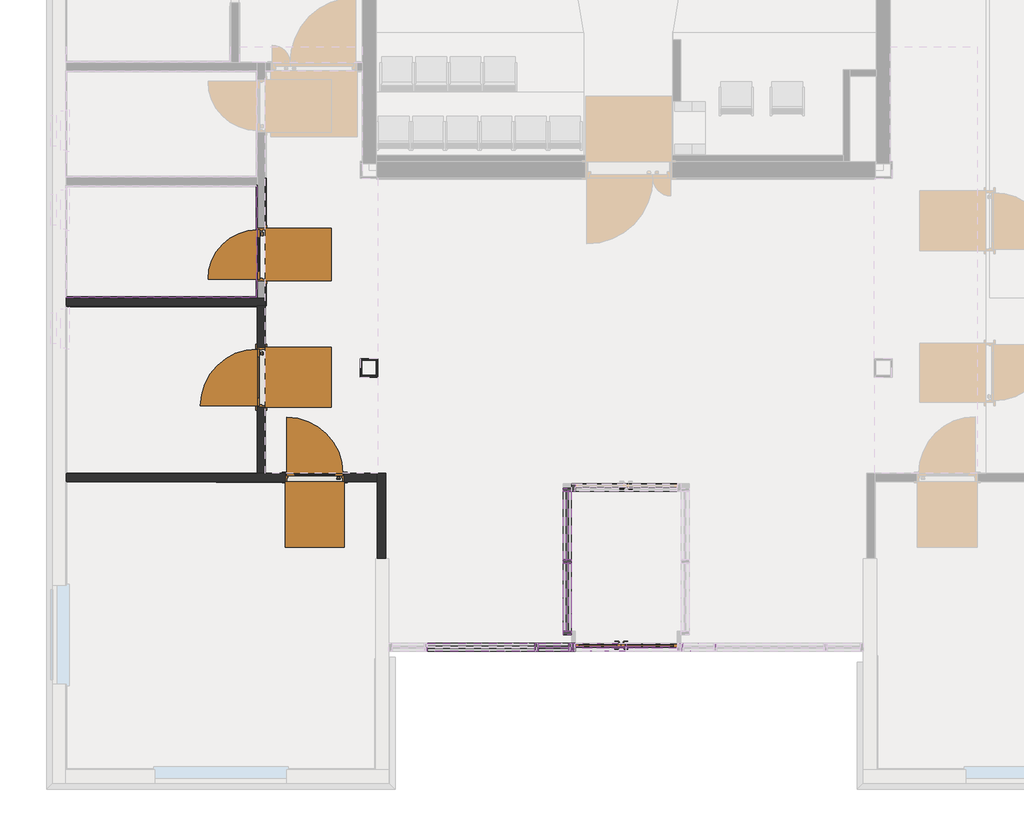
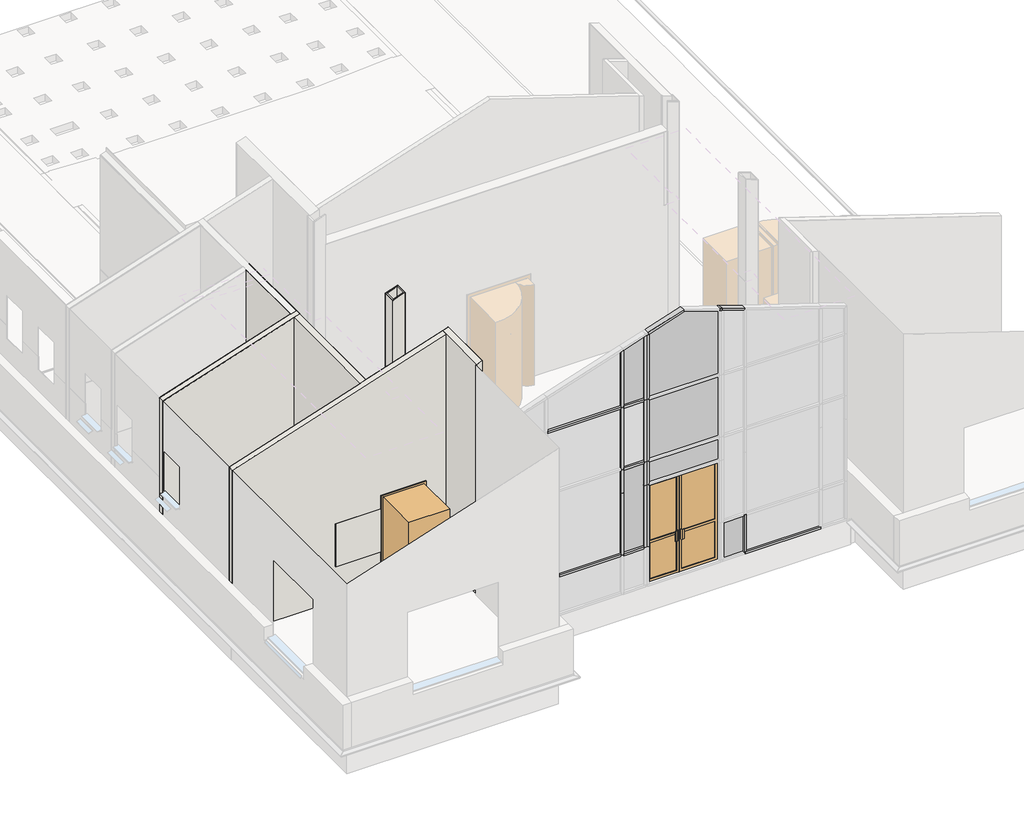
# One storey, part 2 of 12: 37 members, 30 walls, 10 plates, 4 doors.
"""IFC4 building model written with IfcOpenShell, lengths in millimetres."""

from ifc_helpers import new_model, si_unit, frame, origin, origin_with_axes, place, context, project, spatial, polyline, outline, extrude, faceted_brep, transform, mapped, element, save
from components import door_db114602, door_22111eda, door_7bd7211d, door_b59ed808, member_4268e8c1, member_764e5df5, member_5ccecf80, member_849f455b, member_3330f06f, member_3624bc93, member_29c79f2a, member_ba40098e, member_1561aec9, member_f8fde225, member_0fd53cfc, member_ea9aa2e4, member_955f90e7, member_051b1cdf, member_db976e64, member_66ab7281, member_6d54f6d0, member_7e95aabb, member_1ef56fb2, member_f5f8aabc, member_367de799, member_79c3f76f, member_5c1dcb9d, member_df7b1f04, member_ffb9b795, member_4296cfb2, plate_fea7ad9d, plate_c80c347d, plate_43bee1a1, plate_505dbdeb, plate_3f0cfdd4, plate_f7cdd711, plate_e0450a71, plate_c8260542

model = new_model("IFC4")

# Units and contexts
model_context = context("Model", 3, world=origin())
ifc_project = project(units=[si_unit("LENGTHUNIT", "METRE", prefix="MILLI")], contexts=[model_context])

# Site, building, storey
site = spatial("IfcSite", under=ifc_project)
building = spatial("IfcBuilding", under=site)
storey = spatial("IfcBuildingStorey", under=building, Name="Этаж 01", Elevation=0.0)

# Doors
placement = place(None, origin())
door_shape = door_db114602(model_context)
element("IfcDoor", 1, ObjectType="Дверь_Деревянная_Внутренняя_Однопольная_ГОСТ_475-2016 : 0810 x 2070(h)_Пр_с Порогом", at=placement, inside=storey, context=model_context, shape_type="MappedRepresentation", body=[
    mapped(door_shape, transform((2862.2198034, 7719.9998515, 0.0), x_axis=(0.0, 1.0, 0.0), y_axis=(-1.0, 0.0, 0.0), z_axis=(0.0, 0.0, 1.0))),
])
door_2_shape = door_22111eda(model_context)
element("IfcDoor", 2, ObjectType="Дверь_Деревянная_Внутренняя_Однопольная_ГОСТ_475-2016 : 0910 х 2070(h)_Пр_с Порогом", at=placement, inside=storey, context=model_context, shape_type="MappedRepresentation", body=[
    mapped(door_2_shape, transform((2859.5810094, 5854.9957095, 0.0), x_axis=(0.0, 1.0, 0.0), y_axis=(-1.0, 0.0, 0.0), z_axis=(0.0, 0.0, 1.0))),
])
door_3_shape = door_7bd7211d(model_context)
element("IfcDoor", 3, ObjectType="Дверь_Деревянная_Внутренняя_Однопольная_ГОСТ_475-2016 : 1010 х 2070(h)_Пр_с Порогом 2", at=placement, inside=storey, context=model_context, shape_type="MappedRepresentation", body=[
    mapped(door_3_shape, transform((3675.258522, 4340.6707095, 0.0), x_axis=(1.0, 0.0, 0.0), y_axis=(0.0, 1.0, 0.0), z_axis=(0.0, 0.0, 1.0))),
])
door_4_shape = door_b59ed808(model_context)
element("IfcDoor", 4, ObjectType="Дверь-Витраж-Двойная-Витрина : Дверь-Витраж-Двойная-Витрина", at=placement, inside=storey, context=model_context, shape_type="MappedRepresentation", body=[
    mapped(door_4_shape, transform((8400.040308, 1760.3517467, 50.0), x_axis=(1.0, 0.0, 0.0), y_axis=(0.0, 1.0, 0.0), z_axis=(0.0, 0.0, 1.0))),
])

# Members
member_shape = member_4268e8c1(model_context)
element("IfcMember", 5, ObjectType="Прямоугольный импост : 50х120 мм", at=placement, inside=storey, context=model_context, shape_type="MappedRepresentation", body=[
    mapped(member_shape, transform((9750.0630762, 1760.3517467, 5756.0105118), x_axis=(0.30901699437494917, 0.0, 0.951056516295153), y_axis=(0.0, -1.0, 0.0), z_axis=(0.951056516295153, 0.0, -0.30901699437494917))),
])
member_2_shape = member_764e5df5(model_context)
element("IfcMember", 6, ObjectType="Прямоугольный импост : 50х120 мм", at=placement, inside=storey, context=model_context, shape_type="MappedRepresentation", body=[
    mapped(member_2_shape, transform((9750.0630762, 1760.3517467, 0.0), x_axis=(0.0, 0.0, -1.0), y_axis=(0.0, -1.0, 0.0), z_axis=(-1.0, 0.0, 0.0))),
])
member_3_shape = member_5ccecf80(model_context)
element("IfcMember", 7, ObjectType="Прямоугольный импост : 50х120 мм", at=placement, inside=storey, context=model_context, shape_type="MappedRepresentation", body=[
    mapped(member_3_shape, transform((9250.0630762, 1760.3517467, 5918.4703599), x_axis=(0.3090169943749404, 0.0, 0.9510565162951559), y_axis=(0.0, -1.0, 0.0), z_axis=(0.9510565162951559, 0.0, -0.3090169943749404))),
])
member_4_shape = member_849f455b(model_context)
element("IfcMember", 8, ObjectType="Прямоугольный импост : 50х120 мм", at=placement, inside=storey, context=model_context, shape_type="MappedRepresentation", body=[
    mapped(member_4_shape, transform((7040.0175397, 1760.3517467, 2925.0), x_axis=(1.0, 0.0, 0.0), y_axis=(0.0, -1.0, 0.0), z_axis=(0.0, 0.0, -1.0))),
])
element("IfcMember", 9, ObjectType="Прямоугольный импост : 50х120 мм", at=placement, inside=storey, context=model_context, shape_type="MappedRepresentation", body=[
    mapped(member_4_shape, transform((7550.0175397, 1760.3517467, 2925.0), x_axis=(1.0, 0.0, 0.0), y_axis=(0.0, -1.0, 0.0), z_axis=(0.0, 0.0, -1.0))),
])
element("IfcMember", 10, ObjectType="Прямоугольный импост : 50х120 мм", at=placement, inside=storey, context=model_context, shape_type="MappedRepresentation", body=[
    mapped(member_4_shape, transform((7600.0175397, 1760.3517467, 2925.0), x_axis=(1.0, 0.0, 0.0), y_axis=(0.0, -1.0, 0.0), z_axis=(0.0, 0.0, -1.0))),
])
element("IfcMember", 11, ObjectType="Прямоугольный импост : 50х120 мм", at=placement, inside=storey, context=model_context, shape_type="MappedRepresentation", body=[
    mapped(member_4_shape, transform((7600.0175397, 1760.3517467, 925.0), x_axis=(1.0, 0.0, 0.0), y_axis=(0.0, -1.0, 0.0), z_axis=(0.0, 0.0, -1.0))),
])
member_5_shape = member_3330f06f(model_context)
element("IfcMember", 12, ObjectType="Прямоугольный импост : 50х120 мм", at=placement, inside=storey, context=model_context, shape_type="MappedRepresentation", body=[
    mapped(member_5_shape, transform((7015.0175397, 1760.3517467, 4375.0), x_axis=(0.0, 0.0, 1.0), y_axis=(0.0, -1.0, 0.0), z_axis=(1.0, 0.0, 0.0))),
])
element("IfcMember", 13, ObjectType="Прямоугольный импост : 50х120 мм", at=placement, inside=storey, context=model_context, shape_type="MappedRepresentation", body=[
    mapped(member_5_shape, transform((7015.0175397, 1760.3517467, 925.0), x_axis=(0.0, 0.0, 1.0), y_axis=(0.0, -1.0, 0.0), z_axis=(1.0, 0.0, 0.0))),
])
member_6_shape = member_3624bc93(model_context)
element("IfcMember", 14, ObjectType="Прямоугольный импост : 50х120 мм", at=placement, inside=storey, context=model_context, shape_type="MappedRepresentation", body=[
    mapped(member_6_shape, transform((7525.0175397, 1760.3517467, 2925.0), x_axis=(0.0, 0.0, 1.0), y_axis=(0.0, -1.0, 0.0), z_axis=(1.0, 0.0, 0.0))),
])
element("IfcMember", 15, ObjectType="Прямоугольный импост : 50х120 мм", at=placement, inside=storey, context=model_context, shape_type="MappedRepresentation", body=[
    mapped(member_6_shape, transform((7525.0175397, 1760.3517467, 4375.0), x_axis=(0.0, 0.0, 1.0), y_axis=(0.0, -1.0, 0.0), z_axis=(1.0, 0.0, 0.0))),
])
element("IfcMember", 16, ObjectType="Прямоугольный импост : 50х120 мм", at=placement, inside=storey, context=model_context, shape_type="MappedRepresentation", body=[
    mapped(member_6_shape, transform((7525.0175397, 1760.3517467, 925.0), x_axis=(0.0, 0.0, 1.0), y_axis=(0.0, -1.0, 0.0), z_axis=(1.0, 0.0, 0.0))),
])
member_7_shape = member_29c79f2a(model_context)
element("IfcMember", 17, ObjectType="Прямоугольный импост : 50х120 мм", at=placement, inside=storey, context=model_context, shape_type="MappedRepresentation", body=[
    mapped(member_7_shape, transform((9750.0630762, 1760.3517467, 50.0), x_axis=(1.0, 0.0, 0.0), y_axis=(0.0, -1.0, 0.0), z_axis=(0.0, 0.0, -1.0))),
])
member_8_shape = member_ba40098e(model_context)
element("IfcMember", 18, ObjectType="Прямоугольный импост : 50х120 мм", at=placement, inside=storey, context=model_context, shape_type="MappedRepresentation", body=[
    mapped(member_8_shape, transform((7625.1019042, 4185.2487567, 0.0), x_axis=(0.0, 0.0, -1.0), y_axis=(0.0, -1.0, 0.0), z_axis=(-1.0, 0.0, 0.0))),
])
member_9_shape = member_1561aec9(model_context)
element("IfcMember", 19, ObjectType="Прямоугольный импост : 50х120 мм", at=placement, inside=storey, context=model_context, shape_type="MappedRepresentation", body=[
    mapped(member_9_shape, transform((7575.1019042, 4185.2487567, 2900.0), x_axis=(-1.0, 0.0, 0.0), y_axis=(0.0, -1.0, 0.0), z_axis=(0.0, 0.0, 1.0))),
])
member_10_shape = member_f8fde225(model_context)
element("IfcMember", 20, ObjectType="Прямоугольный импост : 50х120 мм", at=placement, inside=storey, context=model_context, shape_type="MappedRepresentation", body=[
    mapped(member_10_shape, transform((7575.1019042, 4185.2487567, 2420.0), x_axis=(-1.0, 0.0, 0.0), y_axis=(0.0, -1.0, 0.0), z_axis=(0.0, 0.0, 1.0))),
])
member_11_shape = member_0fd53cfc(model_context)
element("IfcMember", 21, ObjectType="Прямоугольный импост : 50х120 мм", at=placement, inside=storey, context=model_context, shape_type="MappedRepresentation", body=[
    mapped(member_11_shape, transform((7505.0, 3062.8002517, 0.0), x_axis=(0.0, 0.0, -1.0), y_axis=(1.0, 0.0, 0.0), z_axis=(0.0, -1.0, 0.0))),
])
member_12_shape = member_ea9aa2e4(model_context)
element("IfcMember", 22, ObjectType="Прямоугольный импост : 50х120 мм", at=placement, inside=storey, context=model_context, shape_type="MappedRepresentation", body=[
    mapped(member_12_shape, transform((7505.0, 3062.8002517, 50.0), x_axis=(0.0, 1.0, 0.0), y_axis=(1.0, 0.0, 0.0), z_axis=(0.0, 0.0, -1.0))),
])
member_13_shape = member_955f90e7(model_context)
element("IfcMember", 23, ObjectType="Прямоугольный импост : 50х120 мм", at=placement, inside=storey, context=model_context, shape_type="MappedRepresentation", body=[
    mapped(member_13_shape, transform((7505.0, 3037.8002517, 2390.0), x_axis=(0.0, 0.0, 1.0), y_axis=(1.0, 0.0, 0.0), z_axis=(0.0, 1.0, 0.0))),
])
element("IfcMember", 24, ObjectType="Прямоугольный импост : 50х120 мм", at=placement, inside=storey, context=model_context, shape_type="MappedRepresentation", body=[
    mapped(member_13_shape, transform((7505.0, 4125.3002517, 2390.0), x_axis=(0.0, 0.0, 1.0), y_axis=(1.0, 0.0, 0.0), z_axis=(0.0, 1.0, 0.0))),
])
member_14_shape = member_051b1cdf(model_context)
element("IfcMember", 25, ObjectType="Прямоугольный импост : 50х120 мм", at=placement, inside=storey, context=model_context, shape_type="MappedRepresentation", body=[
    mapped(member_14_shape, transform((7505.0, 4175.3002517, 50.0), x_axis=(0.0, 1.0, 0.0), y_axis=(1.0, 0.0, 0.0), z_axis=(0.0, 0.0, -1.0))),
])
member_15_shape = member_db976e64(model_context)
element("IfcMember", 26, ObjectType="Прямоугольный импост : 50х120 мм", at=placement, inside=storey, context=model_context, shape_type="MappedRepresentation", body=[
    mapped(member_15_shape, transform((7505.0, 1950.3002517, 2900.0), x_axis=(0.0, -1.0, 0.0), y_axis=(1.0, 0.0, 0.0), z_axis=(0.0, 0.0, 1.0))),
])
member_16_shape = member_66ab7281(model_context)
element("IfcMember", 27, ObjectType="Прямоугольный импост : 50х120 мм", at=placement, inside=storey, context=model_context, shape_type="MappedRepresentation", body=[
    mapped(member_16_shape, transform((7505.0, 4125.3002517, 2950.0), x_axis=(0.0, 0.0, 1.0), y_axis=(1.0, 0.0, 0.0), z_axis=(0.0, 1.0, 0.0))),
])
member_17_shape = member_6d54f6d0(model_context)
element("IfcMember", 28, ObjectType="Прямоугольный импост : 50х120 мм", at=placement, inside=storey, context=model_context, shape_type="MappedRepresentation", body=[
    mapped(member_17_shape, transform((7505.0, 2000.3002517, 0.0), x_axis=(0.0, 0.0, -1.0), y_axis=(1.0, 0.0, 0.0), z_axis=(0.0, -1.0, 0.0))),
])
member_18_shape = member_7e95aabb(model_context)
element("IfcMember", 29, ObjectType="Прямоугольный импост : 50х120 мм", at=placement, inside=storey, context=model_context, shape_type="MappedRepresentation", body=[
    mapped(member_18_shape, transform((7505.0, 3037.8002517, 2950.0), x_axis=(0.0, 0.0, 1.0), y_axis=(1.0, 0.0, 0.0), z_axis=(0.0, 1.0, 0.0))),
])
member_19_shape = member_1ef56fb2(model_context)
element("IfcMember", 30, ObjectType="Прямоугольный импост : 50х120 мм", at=placement, inside=storey, context=model_context, shape_type="MappedRepresentation", body=[
    mapped(member_19_shape, transform((7505.0, 3062.8002517, 2390.0), x_axis=(0.0, 1.0, 0.0), y_axis=(1.0, 0.0, 0.0), z_axis=(0.0, 0.0, -1.0))),
])
member_20_shape = member_f5f8aabc(model_context)
element("IfcMember", 31, ObjectType="Прямоугольный импост : 50х120 мм", at=placement, inside=storey, context=model_context, shape_type="MappedRepresentation", body=[
    mapped(member_20_shape, transform((7505.0, 4175.3002517, 2390.0), x_axis=(0.0, 1.0, 0.0), y_axis=(1.0, 0.0, 0.0), z_axis=(0.0, 0.0, -1.0))),
])
member_21_shape = member_367de799(model_context)
element("IfcMember", 32, ObjectType="Прямоугольный импост : 50х120 мм", at=placement, inside=storey, context=model_context, shape_type="MappedRepresentation", body=[
    mapped(member_21_shape, transform((7505.0, 1950.3002517, 2390.0), x_axis=(0.0, -1.0, 0.0), y_axis=(1.0, 0.0, 0.0), z_axis=(0.0, 0.0, 1.0))),
])
element("IfcMember", 33, ObjectType="Прямоугольный импост : 50х120 мм", at=placement, inside=storey, context=model_context, shape_type="MappedRepresentation", body=[
    mapped(member_4_shape, transform((7040.0175397, 1760.3517467, 925.0), x_axis=(1.0, 0.0, 0.0), y_axis=(0.0, -1.0, 0.0), z_axis=(0.0, 0.0, -1.0))),
])
element("IfcMember", 34, ObjectType="Прямоугольный импост : 50х120 мм", at=placement, inside=storey, context=model_context, shape_type="MappedRepresentation", body=[
    mapped(member_4_shape, transform((7550.0175397, 1760.3517467, 925.0), x_axis=(1.0, 0.0, 0.0), y_axis=(0.0, -1.0, 0.0), z_axis=(0.0, 0.0, -1.0))),
])
member_22_shape = member_79c3f76f(model_context)
element("IfcMember", 35, ObjectType="Прямоугольный импост : 50х120 мм", at=placement, inside=storey, context=model_context, shape_type="MappedRepresentation", body=[
    mapped(member_22_shape, transform((7040.0175397, 1760.3517467, 2375.0), x_axis=(1.0, 0.0, 0.0), y_axis=(0.0, -1.0, 0.0), z_axis=(0.0, 0.0, -1.0))),
])
element("IfcMember", 36, ObjectType="Прямоугольный импост : 50х120 мм", at=placement, inside=storey, context=model_context, shape_type="MappedRepresentation", body=[
    mapped(member_22_shape, transform((7550.0175397, 1760.3517467, 2375.0), x_axis=(1.0, 0.0, 0.0), y_axis=(0.0, -1.0, 0.0), z_axis=(0.0, 0.0, -1.0))),
])
element("IfcMember", 37, ObjectType="Прямоугольный импост : 50х120 мм", at=placement, inside=storey, context=model_context, shape_type="MappedRepresentation", body=[
    mapped(member_22_shape, transform((7600.0175397, 1760.3517467, 2375.0), x_axis=(1.0, 0.0, 0.0), y_axis=(0.0, -1.0, 0.0), z_axis=(0.0, 0.0, -1.0))),
])
member_23_shape = member_5c1dcb9d(model_context)
element("IfcMember", 38, ObjectType="Прямоугольный импост : 50х120 мм", at=placement, inside=storey, context=model_context, shape_type="MappedRepresentation", body=[
    mapped(member_23_shape, transform((8400.0, 1760.3517467, 6194.6725964), x_axis=(-0.30901699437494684, 0.0, 0.9510565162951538), y_axis=(0.0, -1.0, 0.0), z_axis=(0.9510565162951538, 0.0, 0.30901699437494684))),
])
member_24_shape = member_df7b1f04(model_context)
element("IfcMember", 39, ObjectType="Прямоугольный импост : 50х120 мм", at=placement, inside=storey, context=model_context, shape_type="MappedRepresentation", body=[
    mapped(member_24_shape, transform((7040.0175397, 1760.3517467, 4375.0), x_axis=(1.0, 0.0, 0.0), y_axis=(0.0, -1.0, 0.0), z_axis=(0.0, 0.0, -1.0))),
])
member_25_shape = member_ffb9b795(model_context)
element("IfcMember", 40, ObjectType="Прямоугольный импост : 50х120 мм", at=placement, inside=storey, context=model_context, shape_type="MappedRepresentation", body=[
    mapped(member_25_shape, transform((7550.0175397, 1760.3517467, 4375.0), x_axis=(1.0, 0.0, 0.0), y_axis=(0.0, -1.0, 0.0), z_axis=(0.0, 0.0, -1.0))),
])
member_26_shape = member_4296cfb2(model_context)
element("IfcMember", 41, ObjectType="Прямоугольный импост : 50х120 мм", at=placement, inside=storey, context=model_context, shape_type="MappedRepresentation", body=[
    mapped(member_26_shape, transform((7600.0175397, 1760.3517467, 4375.0), x_axis=(1.0, 0.0, 0.0), y_axis=(0.0, -1.0, 0.0), z_axis=(0.0, 0.0, -1.0))),
])

# Plates
plate_shape = plate_fea7ad9d(model_context)
element("IfcPlate", 42, ObjectType="Системная панель : ADSK_Cтеклопакет_25", at=placement, inside=storey, context=model_context, shape_type="MappedRepresentation", body=[
    mapped(plate_shape, transform((9500.0630762, 1760.3517467, 50.0), x_axis=(1.0, 0.0, 0.0), y_axis=(0.0, 1.0, 0.0), z_axis=(0.0, 0.0, 1.0))),
])
plate_2_shape = plate_c80c347d(model_context)
element("IfcPlate", 43, ObjectType="Системная панель : ADSK_Cтеклопакет_25 мм", at=placement, inside=storey, context=model_context, shape_type="MappedRepresentation", body=[
    mapped(plate_2_shape, transform((8400.040308, 1760.3517467, 2950.0), x_axis=(1.0, 0.0, 0.0), y_axis=(0.0, 1.0, 0.0), z_axis=(0.0, 0.0, 1.0))),
])
plate_3_shape = plate_43bee1a1(model_context)
element("IfcPlate", 44, ObjectType="Системная панель : ADSK_Cтеклопакет_25 мм", at=placement, inside=storey, context=model_context, shape_type="MappedRepresentation", body=[
    mapped(plate_3_shape, transform((7505.0, 2519.0502517, 50.0), x_axis=(0.0, 1.0, 0.0), y_axis=(-1.0, 0.0, 0.0), z_axis=(0.0, 0.0, 1.0))),
])
element("IfcPlate", 45, ObjectType="Системная панель : ADSK_Cтеклопакет_25 мм", at=placement, inside=storey, context=model_context, shape_type="MappedRepresentation", body=[
    mapped(plate_3_shape, transform((7505.0, 3606.5502517, 50.0), x_axis=(0.0, 1.0, 0.0), y_axis=(-1.0, 0.0, 0.0), z_axis=(0.0, 0.0, 1.0))),
])
plate_4_shape = plate_505dbdeb(model_context)
element("IfcPlate", 46, ObjectType="Системная панель : ADSK_Cтеклопакет_25 мм", at=placement, inside=storey, context=model_context, shape_type="MappedRepresentation", body=[
    mapped(plate_4_shape, transform((7505.0, 2519.0502517, 2415.0), x_axis=(0.0, 1.0, 0.0), y_axis=(-1.0, 0.0, 0.0), z_axis=(0.0, 0.0, 1.0))),
])
element("IfcPlate", 47, ObjectType="Системная панель : ADSK_Cтеклопакет_25 мм", at=placement, inside=storey, context=model_context, shape_type="MappedRepresentation", body=[
    mapped(plate_4_shape, transform((7505.0, 3606.5502517, 2415.0), x_axis=(0.0, 1.0, 0.0), y_axis=(-1.0, 0.0, 0.0), z_axis=(0.0, 0.0, 1.0))),
])
plate_5_shape = plate_3f0cfdd4(model_context)
element("IfcPlate", 48, ObjectType="Системная панель : ADSK_Cтеклопакет_25 мм", at=placement, inside=storey, context=model_context, shape_type="MappedRepresentation", body=[
    mapped(plate_5_shape, transform((7295.0175397, 1760.3517467, 950.0), x_axis=(1.0, 0.0, 0.0), y_axis=(0.0, 1.0, 0.0), z_axis=(0.0, 0.0, 1.0))),
])
plate_6_shape = plate_f7cdd711(model_context)
element("IfcPlate", 49, ObjectType="Системная панель : ADSK_Cтеклопакет_25 мм", at=placement, inside=storey, context=model_context, shape_type="MappedRepresentation", body=[
    mapped(plate_6_shape, transform((8400.040308, 1760.3517467, 2400.0), x_axis=(1.0, 0.0, 0.0), y_axis=(0.0, 1.0, 0.0), z_axis=(0.0, 0.0, 1.0))),
])
plate_7_shape = plate_e0450a71(model_context)
element("IfcPlate", 50, ObjectType="Системная панель : ADSK_Cтеклопакет_25 мм", at=placement, inside=storey, context=model_context, shape_type="MappedRepresentation", body=[
    mapped(plate_7_shape, transform((7295.0175397, 1760.3517467, 4400.0), x_axis=(1.0, 0.0, 0.0), y_axis=(0.0, 1.0, 0.0), z_axis=(0.0, 0.0, 1.0))),
])
plate_8_shape = plate_c8260542(model_context)
element("IfcPlate", 51, ObjectType="Системная панель : ADSK_Cтеклопакет_25 мм", at=placement, inside=storey, context=model_context, shape_type="MappedRepresentation", body=[
    mapped(plate_8_shape, transform((8400.040308, 1760.3517467, 4400.0), x_axis=(1.0, 0.0, 0.0), y_axis=(0.0, 1.0, 0.0), z_axis=(0.0, 0.0, 1.0))),
])

# Walls
element("IfcWall", 52, ObjectType="ADSK_Внутренняя_Кирпич_120", at=placement, inside=storey, context=model_context, shape_type="Brep", body=[
    faceted_brep([(-100.0, 6939.9969968, 100.0), (-99.0, 6939.9969968, 100.0), (-85.0, 6939.9969968, 100.0), (-85.0, 6939.9969968, 0.0), (-85.0, 6939.9969968, -20.0), (2800.2560094, 6939.9969968, -20.0), (2925.3948034, 6939.9969968, -20.0), (2925.3948034, 6939.9969968, 4831.1503758), (2800.2560094, 6939.9969968, 4790.4893438), (-99.0, 6939.9969968, 3848.4414193), (-100.0, 6939.9969968, 3848.1164919), (-85.0, 7059.9969968, 100.0), (-100.0, 7059.9969968, 100.0), (-100.0, 7059.9969968, 3848.1164919), (2805.3948034, 7059.9969968, 4792.1590792), (2925.3948034, 7059.9969968, 4831.1503758), (2925.3948034, 7059.9969968, -20.0), (2805.3948034, 7059.9969968, -20.0), (-85.0, 7059.9969968, -20.0)], [[[0, 1, 2, 3, 4, 5, 6, 7, 8, 9, 10]], [[11, 12, 13, 14, 15, 16, 17, 18]], [[12, 11, 2, 1, 0]], [[2, 11, 18, 4, 3]], [[10, 9, 8, 7, 15, 14, 13]], [[15, 7, 6, 16]], [[12, 0, 10, 13]], [[6, 5, 4, 18, 17, 16]]]),
])
element("IfcWall", 53, ObjectType="Перегородка-КНАУФ-С362-Применение внутри здания-125/75@600 ГВЛ(ГВЛВ)  12,5", at=placement, inside=storey, context=model_context, shape_type="Brep", body=[
    faceted_brep([(4750.0, 3100.5, -20.0), (4750.0, 4399.9957095, -20.0), (4750.0, 4399.9957095, 5424.0147289), (4750.0, 3100.5, 5424.0147289), (4625.0, 3100.5, -20.0), (4625.0, 3100.5, 0.0), (4625.0, 3100.5, 5383.3987949), (4625.0, 3101.5, 5383.3987949), (4625.0, 4273.9957095, 5383.3987949), (4625.0, 4274.9957095, 5383.3987949), (4625.0, 4399.9957095, 5383.3987949), (4625.0, 4399.9957095, -20.0), (4625.0, 4274.9957095, -20.0)], [[[0, 1, 2, 3]], [[4, 5, 6, 7, 8, 9, 10, 11, 12]], [[1, 0, 4, 12, 11]], [[0, 3, 6, 5, 4]], [[2, 1, 11, 10]], [[3, 2, 10, 9, 8, 7, 6]]]),
])
element("IfcWall", 54, ObjectType="Перегородка-КНАУФ-С362-Применение внутри здания-125/75@600 ГВЛ(ГВЛВ)  12,5", at=placement, inside=storey, context=model_context, shape_type="Brep", body=[
    faceted_brep([(4625.0, 4399.9957095, 5383.3987949), (4625.0, 4399.9957095, -20.0), (2925.2560094, 4399.9957095, -20.0), (2800.2560094, 4399.9957095, -20.0), (-85.0, 4399.9957095, -20.0), (-85.0, 4399.9957095, 100.0), (-100.0, 4399.9957095, 100.0), (-100.0, 4399.9957095, 3848.1164919), (2800.2560094, 4399.9957095, 4790.4893438), (2925.2560094, 4399.9957095, 4831.1052778), (2926.3948034, 4399.9957095, 4831.4753032), (4125.258522, 4399.9957095, 0.0), (4125.258522, 4399.9957095, 2070.0), (3225.258522, 4399.9957095, 2070.0), (3225.258522, 4399.9957095, 0.0), (4625.0, 4274.9957095, -20.0), (4625.0, 4274.9957095, 0.0), (4625.0, 4274.9957095, 5383.3987949), (-99.0, 4274.9957095, 3848.4414193), (-100.0, 4274.9957095, 3848.1164919), (-100.0, 4274.9957095, 100.0), (-99.0, 4274.9957095, 100.0), (-85.0, 4274.9957095, 100.0), (-85.0, 4274.9957095, 0.0), (-85.0, 4274.9957095, -20.0), (4125.258522, 4274.9957095, 2070.0), (4125.258522, 4274.9957095, 0.0), (3225.258522, 4274.9957095, 0.0), (3225.258522, 4274.9957095, 2070.0), (-85.0, 4337.4957095, -20.0)], [[[0, 1, 2, 3, 4, 5, 6, 7, 8, 9, 10], [11, 12, 13, 14]], [[15, 16, 17, 18, 19, 20, 21, 22, 23, 24], [25, 26, 27, 28]], [[1, 15, 24, 29, 4, 3, 2]], [[1, 0, 17, 16, 15]], [[11, 26, 25, 12]], [[12, 25, 28, 13]], [[27, 14, 13, 28]], [[26, 11, 14, 27]], [[0, 10, 9, 8, 7, 19, 18, 17]], [[22, 5, 4, 29, 24, 23]], [[5, 22, 21, 20, 6]], [[19, 7, 6, 20]]]),
])
element("IfcWall", 55, ObjectType="Перегородка-КНАУФ-С362-Применение внутри здания-125/75@600 ГВЛ(ГВЛВ)  12,5", at=placement, inside=storey, context=model_context, shape_type="Brep", body=[
    faceted_brep([(2925.2560094, 4399.9957095, -20.0), (2925.2560094, 6939.9969968, -20.0), (2925.2560094, 6939.9969968, 4831.1052778), (2925.2560094, 4399.9957095, 4831.1052778), (2925.2560094, 4399.9957095, 0.0), (2925.2560094, 6309.9957095, 2070.0), (2925.2560094, 6309.9957095, 0.0), (2925.2560094, 5399.9957095, 0.0), (2925.2560094, 5399.9957095, 2070.0), (2800.2560094, 6939.9969968, -20.0), (2800.2560094, 4399.9957095, -20.0), (2800.2560094, 4399.9957095, 4790.4893438), (2800.2560094, 4400.9957095, 4790.4893438), (2800.2560094, 6929.8698515, 4790.4893438), (2800.2560094, 6939.9969968, 4790.4893438), (2800.2560094, 6309.9957095, 0.0), (2800.2560094, 6309.9957095, 2070.0), (2800.2560094, 5399.9957095, 2070.0), (2800.2560094, 5399.9957095, 0.0)], [[[0, 1, 2, 3, 4], [5, 6, 7, 8]], [[9, 10, 11, 12, 13, 14], [15, 16, 17, 18]], [[1, 0, 10, 9]], [[2, 1, 9, 14]], [[0, 4, 3, 11, 10]], [[15, 6, 5, 16]], [[16, 5, 8, 17]], [[17, 8, 7, 18]], [[6, 15, 18, 7]], [[3, 2, 14, 13, 12, 11]]]),
])
element("IfcWall", 56, ObjectType="Отделка - Улучш. штук. по кирп._12 мм", at=placement, inside=storey, context=model_context, shape_type="Brep", body=[
    faceted_brep([(-100.0, 7059.8698515, 0.0), (2799.3948034, 7059.8698515, 0.0), (2799.3948034, 7059.8698515, 4790.2095143), (-100.0, 7059.8698515, 3848.1164919), (-100.0, 7071.8698515, 0.0), (-100.0, 7071.8698515, 100.0), (-100.0, 7071.8698515, 2000.0), (-100.0, 7071.8698515, 3848.1164919), (2799.3948034, 7071.8698515, 4790.2095143), (2799.3948034, 7071.8698515, 0.0)], [[[0, 1, 2, 3]], [[4, 5, 6, 7, 8, 9]], [[1, 0, 4, 9]], [[2, 1, 9, 8]], [[0, 3, 7, 6, 5, 4]], [[3, 2, 8, 7]]]),
])
element("IfcWall", 57, ObjectType="Отделка - Улучш. штук. по кирп._12 мм", at=placement, inside=storey, context=model_context, shape_type="Brep", body=[
    faceted_brep([(2805.3948034, 8770.0, 0.0), (2805.3948034, 8770.0, 4792.1590792), (2805.3948034, 7072.1398515, 4792.1590792), (2805.3948034, 7072.1398515, 0.0), (2805.3948034, 7319.9998515, 0.0), (2805.3948034, 7319.9998515, 2070.0), (2805.3948034, 8119.9998515, 2070.0), (2805.3948034, 8119.9998515, 0.0), (2793.3948034, 8770.0, 4788.2599495), (2793.3948034, 8770.0, 0.0), (2793.3948034, 8758.0, 0.0), (2793.3948034, 8750.0, 0.0), (2793.3948034, 8166.4898515, 0.0), (2793.3948034, 8119.9998515, 0.0), (2793.3948034, 8119.9998515, 2000.0), (2793.3948034, 8119.9998515, 2070.0), (2793.3948034, 7319.9998515, 2070.0), (2793.3948034, 7319.9998515, 2000.0), (2793.3948034, 7319.9998515, 0.0), (2793.3948034, 7273.7898515, 0.0), (2793.3948034, 7072.1398515, 0.0), (2793.3948034, 7072.1398515, 2000.0), (2793.3948034, 7072.1398515, 4788.2599495), (2793.3948034, 7073.1398515, 4788.2599495), (2793.3948034, 8757.0, 4788.2599495), (2793.3948034, 8758.0, 4788.2599495)], [[[0, 1, 2, 3, 4, 5, 6, 7]], [[8, 9, 10, 11, 12, 13, 14, 15, 16, 17, 18, 19, 20, 21, 22, 23, 24, 25]], [[9, 0, 7, 13, 12, 11, 10]], [[3, 20, 19, 18, 4]], [[1, 0, 9, 8]], [[6, 15, 14, 13, 7]], [[15, 6, 5, 16]], [[16, 5, 4, 18, 17]], [[3, 2, 22, 21, 20]], [[2, 1, 8, 25, 24, 23, 22]]]),
])
element("IfcWall", 58, ObjectType="Отделка - Керамическая плитка h=2 м", at=placement, inside=storey, context=model_context, shape_type="Brep", body=[
    faceted_brep([(2793.3948034, 8750.0, 2000.0), (2793.3948034, 8166.4898515, 2000.0), (2793.3948034, 8166.4898515, 0.0), (2793.3948034, 8750.0, 0.0), (2785.3948034, 8166.4898515, 2000.0), (2785.3948034, 8750.0, 2000.0), (2785.3948034, 8750.0, 0.0), (2785.3948034, 8166.4898515, 0.0)], [[[0, 1, 2, 3]], [[4, 5, 6, 7]], [[0, 3, 6, 5]], [[1, 0, 5, 4]], [[2, 1, 4, 7]], [[3, 2, 7, 6]]]),
    faceted_brep([(2793.3948034, 7071.8698515, 0.0), (2793.3948034, 7072.1398515, 0.0), (2793.3948034, 7273.7898515, 0.0), (2793.3948034, 7273.7898515, 2000.0), (2793.3948034, 7071.8698515, 2000.0), (2785.3948034, 7273.7898515, 0.0), (2785.3948034, 7079.8698515, 0.0), (2785.3948034, 7071.8698515, 0.0), (2785.3948034, 7071.8698515, 2000.0), (2785.3948034, 7079.8698515, 2000.0), (2785.3948034, 7273.7898515, 2000.0)], [[[0, 1, 2, 3, 4]], [[5, 6, 7, 8, 9, 10]], [[0, 4, 8, 7]], [[2, 1, 0, 7, 6, 5]], [[3, 2, 5, 10]], [[4, 3, 10, 9, 8]]]),
])
element("IfcWall", 59, ObjectType="Отделка - Керамическая плитка h=2 м", at=placement, inside=storey, context=model_context, shape_type="SweptSolid", body=[
    extrude(outline(polyline([(0.0, -85.0), (0.0, 2785.3948034), (2000.0, 2785.3948034), (2000.0, -100.0), (100.0, -100.0), (100.0, -85.0), (0.0, -85.0)])), frame((0.0, 7071.8698515, 0.0), z_axis=(0.0, 1.0, 0.0), x_axis=(0.0, 0.0, 1.0)), (0.0, 0.0, 1.0), 8.0),
])
element("IfcWall", 60, ObjectType="Отделка - Акриловая покраска_1 мм", at=placement, inside=storey, context=model_context, shape_type="Brep", body=[
    faceted_brep([(2793.3948034, 8757.0, 2000.0), (2793.3948034, 8757.0, 4788.2599495), (2793.3948034, 7073.1398515, 4788.2599495), (2793.3948034, 7073.1398515, 2000.0), (2793.3948034, 7319.9998515, 2000.0), (2793.3948034, 7319.9998515, 2070.0), (2793.3948034, 8119.9998515, 2070.0), (2793.3948034, 8119.9998515, 2000.0), (2793.3948034, 8750.0, 2000.0), (2792.3948034, 8757.0, 4787.935022), (2792.3948034, 8757.0, 2000.0), (2792.3948034, 8119.9998515, 2000.0), (2792.3948034, 8119.9998515, 2070.0), (2792.3948034, 7319.9998515, 2070.0), (2792.3948034, 7319.9998515, 2000.0), (2792.3948034, 7073.1398515, 2000.0), (2792.3948034, 7073.1398515, 4787.935022)], [[[0, 1, 2, 3, 4, 5, 6, 7, 8]], [[9, 10, 11, 12, 13, 14, 15, 16]], [[10, 0, 8, 7, 11]], [[3, 15, 14, 4]], [[1, 0, 10, 9]], [[6, 12, 11, 7]], [[12, 6, 5, 13]], [[13, 5, 4, 14]], [[3, 2, 16, 15]], [[2, 1, 9, 16]]]),
])
element("IfcWall", 61, ObjectType="Отделка - Акриловая покраска_1 мм", at=placement, inside=storey, context=model_context, shape_type="Brep", body=[
    faceted_brep([(-99.0, 7072.1398515, 2000.0), (2793.3948034, 7072.1398515, 2000.0), (2793.3948034, 7072.1398515, 4788.2599495), (-99.0, 7072.1398515, 3848.4414193), (-99.0, 7073.1398515, 2000.0), (-99.0, 7073.1398515, 3848.4414193), (2792.3948034, 7073.1398515, 4787.935022), (2793.3948034, 7073.1398515, 4788.2599495), (2793.3948034, 7073.1398515, 2000.0), (2792.3948034, 7073.1398515, 2000.0)], [[[0, 1, 2, 3]], [[4, 5, 6, 7, 8, 9]], [[1, 0, 4, 9, 8]], [[0, 3, 5, 4]], [[2, 1, 8, 7]], [[3, 2, 7, 6, 5]]]),
])
element("IfcWall", 62, ObjectType="Отделка - Акриловая покраска_1 мм_Улучш. штук. по кирп._9 мм", at=placement, inside=storey, context=model_context, shape_type="Brep", body=[
    faceted_brep([(2800.2560094, 6939.8698515, 0.0), (-85.0, 6939.8698515, 0.0), (-85.0, 6939.8698515, 100.0), (-100.0, 6939.8698515, 100.0), (-100.0, 6939.8698515, 3848.1164919), (2800.2560094, 6939.8698515, 4790.4893438), (2367.6260486, 6939.8698515, 1800.0), (1367.6260486, 6939.8698515, 1800.0), (1367.6260486, 6939.8698515, 800.0), (2367.6260486, 6939.8698515, 800.0), (-85.0, 6929.8698515, 0.0), (2799.2560094, 6929.8698515, 0.0), (2800.2560094, 6929.8698515, 0.0), (2800.2560094, 6929.8698515, 4790.4893438), (2799.2560094, 6929.8698515, 4790.1644164), (-100.0, 6929.8698515, 3848.1164919), (-100.0, 6929.8698515, 100.0), (-85.0, 6929.8698515, 100.0), (1367.6260486, 6929.8698515, 1800.0), (2367.6260486, 6929.8698515, 1800.0), (2367.6260486, 6929.8698515, 800.0), (1367.6260486, 6929.8698515, 800.0), (2367.6260486, 6931.9969968, 1800.0), (1367.6260486, 6931.9969968, 1800.0), (1367.6260486, 6931.9969968, 800.0), (2367.6260486, 6931.9969968, 800.0)], [[[0, 1, 2, 3, 4, 5], [6, 7, 8, 9]], [[10, 11, 12, 13, 14, 15, 16, 17], [18, 19, 20, 21]], [[5, 4, 15, 14, 13]], [[2, 1, 10, 17]], [[4, 3, 16, 15]], [[0, 5, 13, 12]], [[1, 0, 12, 11, 10]], [[7, 6, 22, 19, 18, 23]], [[8, 7, 23, 18, 21, 24]], [[9, 8, 24, 21, 20, 25]], [[6, 9, 25, 20, 19, 22]], [[3, 2, 17, 16]]]),
])
element("IfcWall", 63, ObjectType="Отделка - Акриловая покраска по Кнауф-суперлистам_1 мм", at=placement, inside=storey, context=model_context, shape_type="Brep", body=[
    faceted_brep([(-85.0, 4399.9957095, 0.0), (2800.2560094, 4399.9957095, 0.0), (2800.2560094, 4399.9957095, 4790.4893438), (-100.0, 4399.9957095, 3848.1164919), (-100.0, 4399.9957095, 100.0), (-85.0, 4399.9957095, 100.0), (-85.0, 4400.9957095, 0.0), (-85.0, 4400.9957095, 100.0), (-99.0, 4400.9957095, 100.0), (-100.0, 4400.9957095, 100.0), (-100.0, 4400.9957095, 3848.1164919), (-99.0, 4400.9957095, 3848.4414193), (2799.2560094, 4400.9957095, 4790.1644164), (2800.2560094, 4400.9957095, 4790.4893438), (2800.2560094, 4400.9957095, 0.0), (2799.2560094, 4400.9957095, 0.0)], [[[0, 1, 2, 3, 4, 5]], [[6, 7, 8, 9, 10, 11, 12, 13, 14, 15]], [[1, 0, 6, 15, 14]], [[3, 2, 13, 12, 11, 10]], [[4, 9, 8, 7, 5]], [[0, 5, 7, 6]], [[3, 10, 9, 4]], [[2, 1, 14, 13]]]),
])
element("IfcWall", 64, ObjectType="Отделка - Акриловая покраска по Кнауф-суперлистам_1 мм", at=placement, inside=storey, context=model_context, shape_type="Brep", body=[
    faceted_brep([(2800.2560094, 6929.8698515, 4790.4893438), (2800.2560094, 4400.9957095, 4790.4893438), (2800.2560094, 4400.9957095, 0.0), (2800.2560094, 5399.9957095, 0.0), (2800.2560094, 5399.9957095, 2070.0), (2800.2560094, 6309.9957095, 2070.0), (2800.2560094, 6309.9957095, 0.0), (2800.2560094, 6929.8698515, 0.0), (2799.2560094, 4400.9957095, 4790.1644164), (2799.2560094, 6929.8698515, 4790.1644164), (2799.2560094, 6929.8698515, 0.0), (2799.2560094, 6309.9957095, 0.0), (2799.2560094, 6309.9957095, 2070.0), (2799.2560094, 5399.9957095, 2070.0), (2799.2560094, 5399.9957095, 0.0), (2799.2560094, 4400.9957095, 0.0)], [[[0, 1, 2, 3, 4, 5, 6, 7]], [[8, 9, 10, 11, 12, 13, 14, 15]], [[2, 15, 14, 3]], [[10, 7, 6, 11]], [[1, 0, 9, 8]], [[2, 1, 8, 15]], [[0, 7, 10, 9]], [[5, 12, 11, 6]], [[12, 5, 4, 13]], [[13, 4, 3, 14]]]),
])
element("IfcWall", 65, ObjectType="Отделка - Акриловая покраска по Кнауф-суперлистам_1 мм", at=placement, inside=storey, context=model_context, shape_type="Brep", body=[
    faceted_brep([(-100.0, 4274.9957095, 3848.1164919), (4625.0, 4274.9957095, 5383.3987949), (4625.0, 4274.9957095, 0.0), (4125.258522, 4274.9957095, 0.0), (4125.258522, 4274.9957095, 2070.0), (3225.258522, 4274.9957095, 2070.0), (3225.258522, 4274.9957095, 0.0), (-85.0, 4274.9957095, 0.0), (-85.0, 4274.9957095, 100.0), (-100.0, 4274.9957095, 100.0), (3178.908522, 4274.9957095, 1800.0), (2178.908522, 4274.9957095, 1800.0), (2178.908522, 4274.9957095, 800.0), (3178.908522, 4274.9957095, 800.0), (4625.0, 4273.9957095, 5383.3987949), (4624.0, 4273.9957095, 5383.0738674), (-100.0, 4273.9957095, 3848.1164919), (-100.0, 4273.9957095, 100.0), (-85.0, 4273.9957095, 100.0), (-85.0, 4273.9957095, 0.0), (3225.258522, 4273.9957095, 0.0), (3225.258522, 4273.9957095, 2070.0), (4125.258522, 4273.9957095, 2070.0), (4125.258522, 4273.9957095, 0.0), (4624.0, 4273.9957095, 0.0), (4625.0, 4273.9957095, 0.0), (2178.908522, 4273.9957095, 1800.0), (3178.908522, 4273.9957095, 1800.0), (3178.908522, 4273.9957095, 800.0), (2178.908522, 4273.9957095, 800.0)], [[[0, 1, 2, 3, 4, 5, 6, 7, 8, 9], [10, 11, 12, 13]], [[14, 15, 16, 17, 18, 19, 20, 21, 22, 23, 24, 25], [26, 27, 28, 29]], [[1, 0, 16, 15, 14]], [[2, 1, 14, 25]], [[22, 4, 3, 23]], [[4, 22, 21, 5]], [[5, 21, 20, 6]], [[8, 7, 19, 18]], [[0, 9, 17, 16]], [[2, 25, 24, 23, 3]], [[19, 7, 6, 20]], [[11, 10, 27, 26]], [[12, 11, 26, 29]], [[13, 12, 29, 28]], [[10, 13, 28, 27]], [[9, 8, 18, 17]]]),
])
element("IfcWall", 66, ObjectType="Отделка - Акриловая покраска по Кнауф-суперлистам_1 мм", at=placement, inside=storey, context=model_context, shape_type="SweptSolid", body=[
    extrude(outline(polyline([(0.0, 4625.0), (5383.3987949, 4625.0), (5383.0738674, 4624.0), (0.0, 4624.0), (0.0, 4625.0)])), frame((0.0, 3101.5, 0.0), z_axis=(0.0, 1.0, 0.0), x_axis=(0.0, 0.0, 1.0)), (0.0, 0.0, 1.0), 1172.4957095),
])
element("IfcWall", 67, ObjectType="Отделка - Акриловая покраска по Кнауф-суперлистам_1 мм", at=placement, inside=storey, context=model_context, shape_type="Brep", body=[
    faceted_brep([(2925.3948034, 6940.1398515, 4831.1503758), (2925.3948034, 6940.1398515, 0.0), (2925.3948034, 6309.9957095, 0.0), (2925.3948034, 6309.9957095, 2070.0), (2925.3948034, 5399.9957095, 2070.0), (2925.3948034, 5399.9957095, 0.0), (2925.3948034, 4399.9957095, 0.0), (2925.3948034, 4399.9957095, 4831.1503758), (2926.3948034, 6940.1398515, 0.0), (2926.3948034, 6940.1398515, 4831.4753032), (2926.3948034, 4400.9957095, 4831.4753032), (2926.3948034, 4399.9957095, 4831.4753032), (2926.3948034, 4399.9957095, 0.0), (2926.3948034, 4400.9957095, 0.0), (2926.3948034, 5399.9957095, 0.0), (2926.3948034, 5399.9957095, 2070.0), (2926.3948034, 6309.9957095, 2070.0), (2926.3948034, 6309.9957095, 0.0)], [[[0, 1, 2, 3, 4, 5, 6, 7]], [[8, 9, 10, 11, 12, 13, 14, 15, 16, 17]], [[12, 6, 5, 14, 13]], [[1, 8, 17, 2]], [[1, 0, 9, 8]], [[7, 6, 12, 11]], [[16, 3, 2, 17]], [[3, 16, 15, 4]], [[4, 15, 14, 5]], [[0, 7, 11, 10, 9]]]),
])
element("IfcWall", 68, ObjectType="Отделка - Акриловая покраска по Кнауф-суперлистам_1 мм", at=placement, inside=storey, context=model_context, shape_type="Brep", body=[
    faceted_brep([(4751.0, 4399.9957095, 0.0), (4751.0, 4399.9957095, 5424.3396563), (4750.0, 4399.9957095, 5424.0147289), (4625.0, 4399.9957095, 5383.3987949), (2926.3948034, 4399.9957095, 4831.4753032), (2926.3948034, 4399.9957095, 0.0), (3225.258522, 4399.9957095, 0.0), (3225.258522, 4399.9957095, 2070.0), (4125.258522, 4399.9957095, 2070.0), (4125.258522, 4399.9957095, 0.0), (4750.0, 4399.9957095, 0.0), (4751.0, 4400.9957095, 5424.3396563), (4751.0, 4400.9957095, 0.0), (4125.258522, 4400.9957095, 0.0), (4125.258522, 4400.9957095, 2070.0), (3225.258522, 4400.9957095, 2070.0), (3225.258522, 4400.9957095, 0.0), (2926.3948034, 4400.9957095, 0.0), (2926.3948034, 4400.9957095, 4831.4753032)], [[[0, 1, 2, 3, 4, 5, 6, 7, 8, 9, 10]], [[11, 12, 13, 14, 15, 16, 17, 18]], [[12, 0, 10, 9, 13]], [[5, 17, 16, 6]], [[1, 0, 12, 11]], [[5, 4, 18, 17]], [[4, 3, 2, 1, 11, 18]], [[8, 14, 13, 9]], [[14, 8, 7, 15]], [[15, 7, 6, 16]]]),
])
element("IfcWall", 69, ObjectType="Отделка - Акриловая покраска по Кнауф-суперлистам_1 мм", at=placement, inside=storey, context=model_context, shape_type="SweptSolid", body=[
    extrude(outline(polyline([(5424.0147289, 4750.0), (0.0, 4750.0), (0.0, 4751.0), (5424.3396563, 4751.0), (5424.0147289, 4750.0)])), frame((0.0, 3100.5, 0.0), z_axis=(0.0, 1.0, 0.0), x_axis=(0.0, 0.0, 1.0)), (0.0, 0.0, 1.0), 1299.4957095),
])
element("IfcWall", 70, ObjectType="Отделка - Заводское покрытие сэндвич-панелей", at=placement, inside=storey, context=model_context, shape_type="SweptSolid", body=[
    extrude(outline(polyline([(0.0, 4600.0), (0.0, 4625.0), (5383.3987949, 4625.0), (5375.2756081, 4600.0), (0.0, 4600.0)])), frame((0.0, 3100.5, 0.0), z_axis=(0.0, 1.0, 0.0), x_axis=(0.0, 0.0, 1.0)), (0.0, 0.0, 1.0), 1.0),
])
element("IfcWall", 71, ObjectType="Отделка - Акриловая покраска_1 мм_Улучш. штук. по кирп._9 мм", at=placement, inside=storey, context=model_context, shape_type="Brep", body=[
    faceted_brep([(2925.3948034, 6940.1398515, 0.0), (2925.3948034, 6940.1398515, 4831.1503758), (2925.3948034, 7059.9969968, 4831.1503758), (2925.3948034, 8875.0000003, 4831.1503758), (2925.3948034, 8875.0000003, 0.0), (2925.3948034, 8119.9998515, 0.0), (2925.3948034, 8119.9998515, 2070.0), (2925.3948034, 7319.9998515, 2070.0), (2925.3948034, 7319.9998515, 0.0), (2935.3948034, 6940.1398515, 4834.3996505), (2935.3948034, 6940.1398515, 0.0), (2935.3948034, 7319.9998515, 0.0), (2935.3948034, 7319.9998515, 2070.0), (2935.3948034, 8119.9998515, 2070.0), (2935.3948034, 8119.9998515, 0.0), (2935.3948034, 8875.0000003, 0.0), (2935.3948034, 8875.0000003, 4834.3996505), (2926.3948034, 6940.1398515, 0.0), (2926.3948034, 6940.1398515, 4831.4753032)], [[[0, 1, 2, 3, 4, 5, 6, 7, 8]], [[9, 10, 11, 12, 13, 14, 15, 16]], [[4, 15, 14, 5]], [[10, 17, 0, 8, 11]], [[1, 0, 17, 10, 9, 18]], [[4, 3, 16, 15]], [[3, 2, 1, 18, 9, 16]], [[13, 6, 5, 14]], [[6, 13, 12, 7]], [[7, 12, 11, 8]]]),
])
element("IfcWall", 72, ObjectType="Отделка - Акриловая покраска по Кнауф-суперлистам_1 мм", at=placement, inside=storey, context=model_context, shape_type="SweptSolid", body=[
    extrude(outline(polyline([(0.0, 4362.5), (0.0, 4631.5630762), (3000.0, 4631.5630762), (3000.0, 4630.5630762), (4695.0, 4630.5630762), (4695.0, 4631.5630762), (5385.5313187, 4631.5630762), (5298.1053336, 4362.5), (3032.0, 4362.5), (3032.0, 4367.5630762), (3000.0, 4367.5630762), (3000.0, 4362.5), (0.0, 4362.5)])), frame((0.0, 5859.0, 0.0), z_axis=(0.0, 1.0, 0.0), x_axis=(0.0, 0.0, 1.0)), (0.0, 0.0, 1.0), 1.0),
])
element("IfcWall", 73, ObjectType="Отделка - Акриловая покраска по Кнауф-суперлистам_1 мм", at=placement, inside=storey, context=model_context, shape_type="SweptSolid", body=[
    extrude(outline(polyline([(4362.5, 6140.0), (4362.5, 5859.0), (4361.5, 5859.0), (4361.5, 6140.0), (4362.5, 6140.0)])), origin_with_axes(), (0.0, 0.0, 1.0), 3000.0),
    extrude(outline(polyline([(5298.1053336, 4362.5), (5297.7804062, 4361.5), (3032.0, 4361.5), (3032.0, 4362.5), (5298.1053336, 4362.5)])), frame((0.0, 5859.0, 0.0), z_axis=(0.0, 1.0, 0.0), x_axis=(0.0, 0.0, 1.0)), (0.0, 0.0, 1.0), 281.0),
])
element("IfcWall", 74, ObjectType="Отделка - Акриловая покраска по Кнауф-суперлистам_1 мм", at=placement, inside=storey, context=model_context, shape_type="Brep", body=[
    faceted_brep([(4361.5, 6140.0, 0.0), (4631.5630762, 6140.0, 0.0), (4631.5630762, 6140.0, 5385.5313187), (4361.5, 6140.0, 5297.7804062), (4361.5, 6140.0, 3032.0), (4367.5630762, 6140.0, 3032.0), (4367.5630762, 6140.0, 3000.0), (4361.5, 6140.0, 3000.0), (4631.5630762, 6141.0, 0.0), (4361.5, 6141.0, 0.0), (4361.5, 6141.0, 3000.0), (4367.5630762, 6141.0, 3000.0), (4367.5630762, 6141.0, 3032.0), (4361.5, 6141.0, 3032.0), (4361.5, 6141.0, 5297.7804062), (4631.5630762, 6141.0, 5385.5313187), (4631.5630762, 6141.0, 4695.0), (4631.5630762, 6141.0, 3032.0), (4631.5630762, 6141.0, 3000.0)], [[[0, 1, 2, 3, 4, 5, 6, 7]], [[8, 9, 10, 11, 12, 13, 14, 15, 16, 17, 18]], [[1, 0, 9, 8]], [[2, 1, 8, 18, 17, 16, 15]], [[9, 0, 7, 10]], [[3, 14, 13, 4]], [[12, 5, 4, 13]], [[6, 11, 10, 7]], [[3, 2, 15, 14]], [[5, 12, 11, 6]]]),
])
element("IfcWall", 75, ObjectType="Отделка - Акриловая покраска по Кнауф-суперлистам_1 мм", at=placement, inside=storey, context=model_context, shape_type="Brep", body=[
    faceted_brep([(4631.5630762, 6141.0, 0.0), (4631.5630762, 6140.0, 0.0), (4631.5630762, 5859.0, 0.0), (4631.5630762, 5859.0, 3000.0), (4631.5630762, 5859.0, 4695.0), (4631.5630762, 5859.0, 5385.5313187), (4631.5630762, 6140.0, 5385.5313187), (4631.5630762, 6141.0, 5385.5313187), (4631.5630762, 6141.0, 4695.0), (4631.5630762, 6141.0, 3000.0), (4632.5630762, 6141.0, 0.0), (4632.5630762, 6141.0, 3000.0), (4632.5630762, 6141.0, 4695.0), (4632.5630762, 6141.0, 5385.8562461), (4632.5630762, 5859.0, 5385.8562461), (4632.5630762, 5859.0, 4695.0), (4632.5630762, 5859.0, 3000.0), (4632.5630762, 5859.0, 0.0)], [[[0, 1, 2, 3, 4, 5, 6, 7, 8, 9]], [[10, 11, 12, 13, 14, 15, 16, 17]], [[2, 1, 0, 10, 17]], [[5, 4, 3, 2, 17, 16, 15, 14]], [[0, 9, 8, 7, 13, 12, 11, 10]], [[7, 6, 5, 14, 13]]]),
])
element("IfcWall", 76, ObjectType="Облицовка КНАУФ 12,5", at=placement, inside=storey, context=model_context, shape_type="Brep", body=[
    faceted_brep([(4387.5, 6115.0, 0.0), (4606.5630763, 6115.0, 0.0), (4631.5630763, 6115.0, 0.0), (4631.5630763, 6115.0, 3000.0), (4631.5630763, 6115.0, 4695.0), (4631.5630763, 6115.0, 5385.5313187), (4606.5630763, 6115.0, 5377.4081319), (4387.5, 6115.0, 5306.2285204), (4387.5, 6140.0, 0.0), (4387.5, 6140.0, 5306.2285204), (4631.5630763, 6140.0, 5385.5313187), (4631.5630763, 6140.0, 0.0)], [[[0, 1, 2, 3, 4, 5, 6, 7]], [[8, 9, 10, 11]], [[2, 1, 0, 8, 11]], [[5, 4, 3, 2, 11, 10]], [[0, 7, 9, 8]], [[7, 6, 5, 10, 9]]]),
])
element("IfcWall", 77, ObjectType="Облицовка КНАУФ 12,5", at=placement, inside=storey, context=model_context, shape_type="Brep", body=[
    faceted_brep([(4606.5630763, 6115.0, 0.0), (4606.5630763, 5885.0, 0.0), (4606.5630763, 5860.0, 0.0), (4606.5630763, 5860.0, 5377.4081319), (4606.5630763, 5885.0, 5377.4081319), (4606.5630763, 6115.0, 5377.4081319), (4631.5630763, 5860.0, 0.0), (4631.5630763, 6115.0, 0.0), (4631.5630763, 6115.0, 3000.0), (4631.5630763, 5860.0, 3000.0), (4631.5630763, 6115.0, 5385.5313187), (4631.5630763, 5860.0, 5385.5313187), (4631.5630763, 5860.0, 4695.0), (4631.5630763, 6115.0, 4695.0), (4630.5630762, 6115.0, 4695.0), (4630.5630762, 6115.0, 3000.0), (4630.5630762, 5860.0, 3000.0), (4630.5630762, 5860.0, 4695.0)], [[[0, 1, 2, 3, 4, 5]], [[6, 7, 8, 9]], [[10, 11, 12, 13]], [[2, 1, 0, 7, 6]], [[0, 5, 10, 13, 14, 15, 8, 7]], [[3, 2, 6, 9, 16, 17, 12, 11]], [[5, 4, 3, 11, 10]], [[16, 15, 14, 17]], [[15, 16, 9, 8]], [[17, 14, 13, 12]]]),
])
element("IfcWall", 78, ObjectType="Облицовка КНАУФ 12,5", at=placement, inside=storey, context=model_context, shape_type="SweptSolid", body=[
    extrude(outline(polyline([(0.0, 4606.5630763), (5377.4081319, 4606.5630763), (5306.2285204, 4387.5), (0.0, 4387.5), (0.0, 4606.5630763)])), frame((0.0, 5860.0, 0.0), z_axis=(0.0, 1.0, 0.0), x_axis=(0.0, 0.0, 1.0)), (0.0, 0.0, 1.0), 25.0),
])
element("IfcWall", 79, ObjectType="Облицовка КНАУФ 12,5", at=placement, inside=storey, context=model_context, shape_type="Brep", body=[
    faceted_brep([(4387.5, 5860.0, 0.0), (4387.5, 5885.0, 0.0), (4387.5, 6115.0, 0.0), (4387.5, 6140.0, 0.0), (4387.5, 6140.0, 5306.2285204), (4387.5, 6115.0, 5306.2285204), (4387.5, 5885.0, 5306.2285204), (4387.5, 5860.0, 5306.2285204), (4362.5, 5860.0, 0.0), (4362.5, 5860.0, 5298.1053336), (4362.5, 6140.0, 5298.1053336), (4362.5, 6140.0, 0.0)], [[[0, 1, 2, 3, 4, 5, 6, 7]], [[8, 9, 10, 11]], [[3, 2, 1, 0, 8, 11]], [[4, 3, 11, 10]], [[0, 7, 9, 8]], [[7, 6, 5, 4, 10, 9]]]),
])
element("IfcWall", 80, ObjectType="Отделка - Керамическая плитка h=2 м", at=placement, inside=storey, context=model_context, shape_type="SweptSolid", body=[
    extrude(outline(polyline([(1367.6260486, 6939.9969968), (2367.6260486, 6939.9969968), (2367.6260486, 6931.9969968), (1367.6260486, 6931.9969968), (1367.6260486, 6939.9969968)])), frame((0.0, 0.0, 800.0), z_axis=(0.0, 0.0, 1.0), x_axis=(1.0, 0.0, 0.0)), (0.0, 0.0, 1.0), 1000.0),
])
element("IfcWall", 81, ObjectType="Отделка - Керамическая плитка h=2 м", at=placement, inside=storey, context=model_context, shape_type="Brep", body=[
    faceted_brep([(3178.908522, 4274.9957095, 800.0), (2178.908522, 4274.9957095, 800.0), (2178.908522, 4274.9957095, 1800.0), (3178.908522, 4274.9957095, 1800.0), (3178.908522, 4266.9957095, 800.0), (3178.908522, 4266.9957095, 1800.0), (2178.908522, 4266.9957095, 1800.0), (2178.908522, 4266.9957095, 800.0), (3178.908522, 4273.9957095, 800.0), (2178.908522, 4273.9957095, 800.0), (2178.908522, 4273.9957095, 1800.0), (3178.908522, 4273.9957095, 1800.0)], [[[0, 1, 2, 3]], [[4, 5, 6, 7]], [[1, 0, 8, 4, 7, 9]], [[2, 1, 9, 7, 6, 10]], [[3, 2, 10, 6, 5, 11]], [[0, 3, 11, 5, 4, 8]]]),
])

save(model, "model.ifc")
